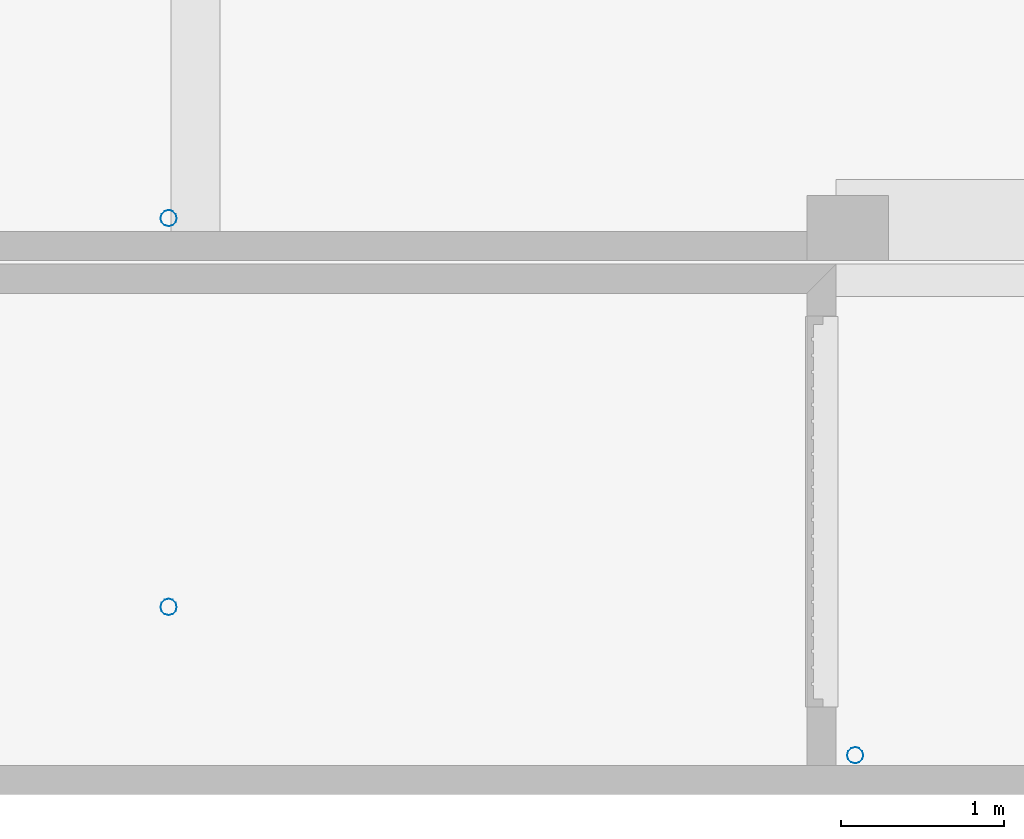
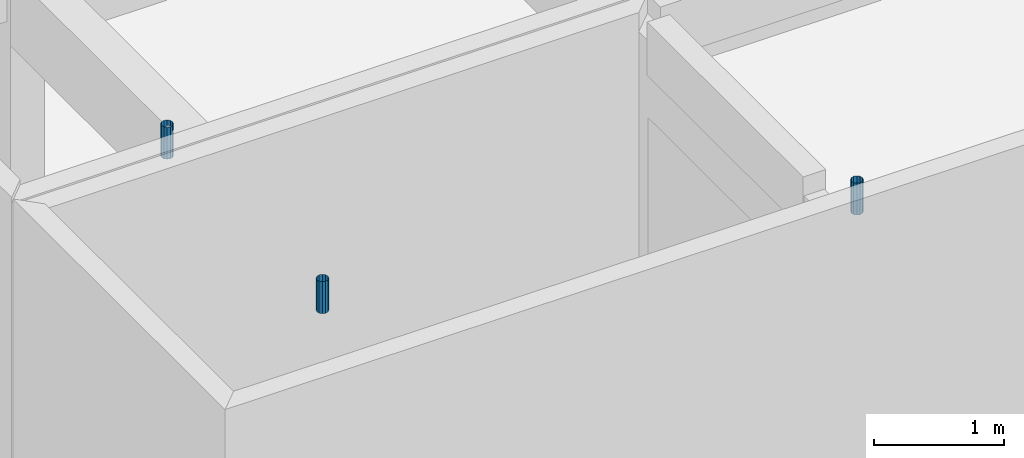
# One storey, part 20 of 41: 3 discrete accessories.
"""IFC2X3 building model written with IfcOpenShell, lengths in millimetres."""

from ifc_helpers import new_model, entity, si_unit, converted_unit, derived_unit, money_unit, direction, frame, origin_with_axes, place, context, subcontext, project, spatial, open_shell, surface_model, source, transform, mapped, type_object, element, save


model = new_model("IFC2X3")

# Units and contexts
model_context = context("Model", 3, precision=0.01, world=origin_with_axes(), true_north=direction((0.0, 1.0)))
body_context = subcontext(model_context, "Body", "Model", "MODEL_VIEW")
ifc_project = project(units=[si_unit("LENGTHUNIT", "METRE", prefix="MILLI"), si_unit("AREAUNIT", "SQUARE_METRE"), si_unit("VOLUMEUNIT", "CUBIC_METRE"), converted_unit("PLANEANGLEUNIT", "DEGREE", entity("IfcPlaneAngleMeasure", 0.0174532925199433), si_unit("PLANEANGLEUNIT", "RADIAN"), dimensions=[0, 0, 0, 0, 0, 0, 0]), money_unit("USD"), converted_unit("TIMEUNIT", "Year", entity("IfcTimeMeasure", 31557600.0), si_unit("TIMEUNIT", "SECOND"), dimensions=[0, 0, 1, 0, 0, 0, 0]), si_unit("MASSUNIT", "GRAM", prefix="KILO"), si_unit("THERMODYNAMICTEMPERATUREUNIT", "DEGREE_CELSIUS"), si_unit("LUMINOUSINTENSITYUNIT", "LUMEN"), si_unit("ENERGYUNIT", "JOULE", prefix="MEGA"), derived_unit("THERMALCONDUCTANCEUNIT", [(si_unit("POWERUNIT", "WATT"), 1), (si_unit("LENGTHUNIT", "METRE"), -1), (si_unit("THERMODYNAMICTEMPERATUREUNIT", "KELVIN"), -1)]), derived_unit("SPECIFICHEATCAPACITYUNIT", [(si_unit("ENERGYUNIT", "JOULE"), 1), (si_unit("MASSUNIT", "GRAM", prefix="KILO"), -1), (si_unit("THERMODYNAMICTEMPERATUREUNIT", "KELVIN"), -1)]), derived_unit("MASSDENSITYUNIT", [(si_unit("MASSUNIT", "GRAM", prefix="KILO"), 1), (si_unit("VOLUMEUNIT", "CUBIC_METRE"), -1)])], contexts=[model_context])

# Site, building, storey
site_placement = place(None, origin_with_axes())
site = spatial("IfcSite", under=ifc_project, at=site_placement, Name="Site", CompositionType="ELEMENT")
building_placement = place(site_placement, origin_with_axes())
building = spatial("IfcBuilding", under=site, at=building_placement, Name="Bâtiment", CompositionType="ELEMENT")
storey_placement = place(building_placement, origin_with_axes())
storey = spatial("IfcBuildingStorey", under=building, at=storey_placement, Name="sousol", CompositionType="ELEMENT", Elevation=0.0)

# Discrete accessories
discrete_accessory_type = type_object("IfcDiscreteAccessoryType", Name="Tuyau descente 27")
shared_shape = source(origin_with_axes(), body_context, "Body", "SurfaceModel", [
    surface_model("IfcShellBasedSurfaceModel", [(50.0, 0.0, 300.0), (43.30127018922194, -25.0, 300.0), (43.30127018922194, -25.0, 0.0), (50.0, 0.0, 0.0), (25.00000000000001, -43.30127018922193, 300.0), (25.00000000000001, -43.30127018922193, 0.0), (43.30127018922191, 25.00000000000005, 300.0), (43.30127018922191, 25.00000000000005, 0.0), (0.0, -50.0, 300.0), (0.0, -50.0, 0.0), (24.99999999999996, 43.30127018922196, 300.0), (24.99999999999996, 43.30127018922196, 0.0), (-24.99999999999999, -43.30127018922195, 300.0), (-24.99999999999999, -43.30127018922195, 0.0), (0.0, 50.0, 300.0), (0.0, 50.0, 0.0), (-43.30127018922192, -25.00000000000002, 300.0), (-43.30127018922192, -25.00000000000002, 0.0), (-25.00000000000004, 43.30127018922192, 300.0), (-25.00000000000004, 43.30127018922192, 0.0), (-50.0, 0.0, 300.0), (-50.0, 0.0, 0.0), (-43.30127018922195, 24.99999999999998, 300.0), (-43.30127018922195, 24.99999999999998, 0.0)], [open_shell([[[0, 1, 2, 3]], [[1, 4, 5, 2]], [[6, 0, 3, 7]], [[4, 8, 9, 5]], [[10, 6, 7, 11]], [[8, 12, 13, 9]], [[14, 10, 11, 15]], [[12, 16, 17, 13]], [[18, 14, 15, 19]], [[16, 20, 21, 17]], [[22, 18, 19, 23]], [[20, 22, 23, 21]]])]),
])
for number, where, z_axis, x_axis, name in (
    (1, (2222381.379344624, -660856.0481653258, 2700.0), (0.0, 0.0, 1.0), (1.0, 0.0, 0.0), "Obj.-318"),
    (2, (2218164.233338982, -657556.9887538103, 2700.0), (0.0, 0.0, 1.0), (1.0, 0.0, 0.0), "Obj.-318"),
    (3, (2218164.233338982, -659945.2572130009, 2700.0), (0.0, 0.0, 1.0), (1.0, 0.0, 0.0), "Obj.-318"),
):
    element("IfcDiscreteAccessory", number, at=place(storey_placement, frame(where, z_axis=z_axis, x_axis=x_axis)), inside=storey, type_object=discrete_accessory_type, Name=name, context=body_context, shape_type="MappedRepresentation", body=[
        mapped(shared_shape, transform((0.0, 0.0, 0.0))),
    ])

save(model, "model.ifc")
